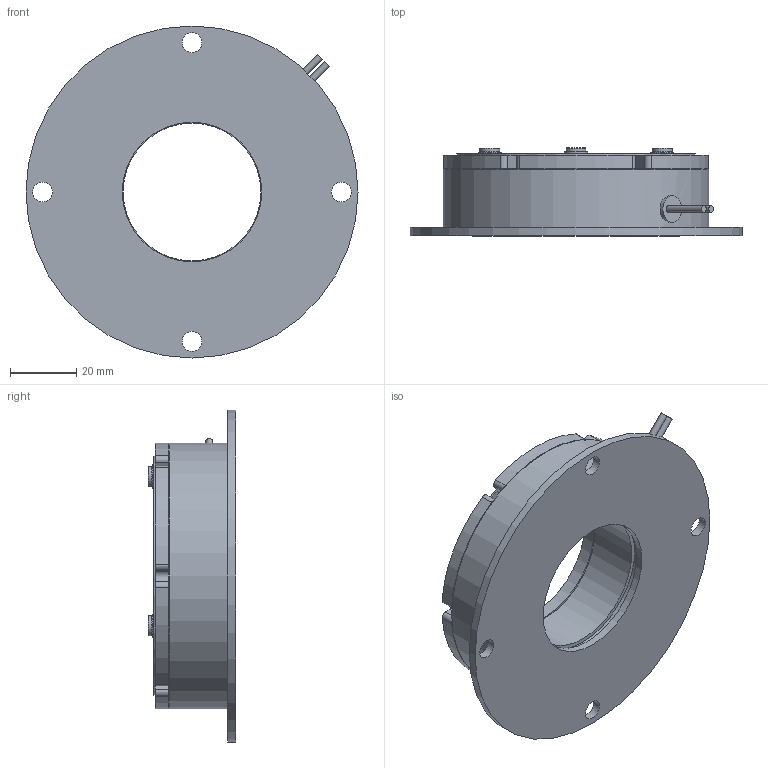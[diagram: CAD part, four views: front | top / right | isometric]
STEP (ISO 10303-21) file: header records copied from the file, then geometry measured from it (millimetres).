
FILE_DESCRIPTION (( 'STEP AP203' ), '1' );
FILE_NAME ('B-M10-F01.STEP', '2023-04-17T08:51:18', ( '' ), ( '' ), 'SwSTEP 2.0', 'SolidWorks 2015', '' );
FILE_SCHEMA (( 'CONFIG_CONTROL_DESIGN' ));
Length unit declared in the file: millimetre
Products named in the file (1): B-M10-F01
Bounding box: 100 x 26.4 x 100 mm (x, y, z)
Volume: 93534.1 mm3; surface area: 31126.3 mm2
Topology: 2 solids, 2 shells, 122 faces, 279 edges, 180 vertices
Faces by surface type: cylinder 54, plane 47, torus 12, cone 9
Full cylindrical faces by diameter (mm): 2 x2, 3 x3, 4.1 x3, 6 x7, 7 x3, 8 x4, 41.5 x1, 42 x2, 44.5 x1, 48 x1, 72 x1, 80 x1, 100 x1
Entity records: 3253 total; most frequent: DIRECTION 596, CARTESIAN_POINT 564, ORIENTED_EDGE 424, AXIS2_PLACEMENT_3D 262, EDGE_CURVE 212, EDGE_LOOP 210, VERTEX_POINT 164, FACE_OUTER_BOUND 164
